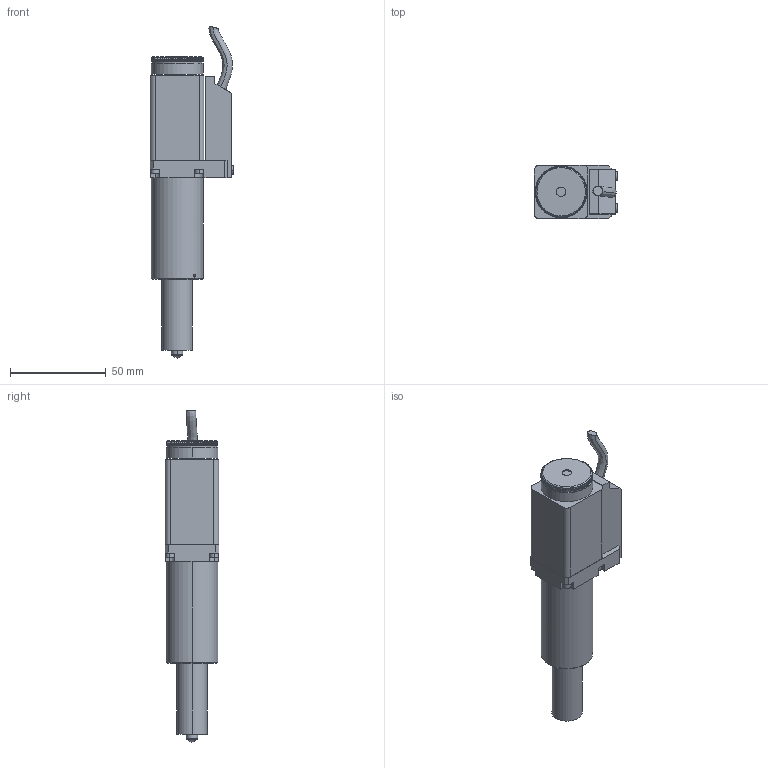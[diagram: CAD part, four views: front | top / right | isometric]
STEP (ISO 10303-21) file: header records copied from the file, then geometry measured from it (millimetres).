
FILE_DESCRIPTION (( 'STEP AP203' ), '1' );
FILE_NAME ('8MS00-10-28.STEP', '2009-08-13T10:38:27', ( 'Darius' ), ( '' ), 'SwSTEP 2.0', 'SolidWorks 2003240', '' );
FILE_SCHEMA (( 'CONFIG_CONTROL_DESIGN' ));
Length unit declared in the file: millimetre
Products named in the file (1): 8MS00-10-28
Bounding box: 43.5 x 28 x 173.07 mm (x, y, z)
Volume: 100480.6 mm3; surface area: 21284.2 mm2
Topology: 1 solids, 14 shells, 907 faces, 2425 edges, 1551 vertices
Faces by surface type: cylinder 465, plane 389, cone 38, bspline 15
Entity records: 30345 total; most frequent: CARTESIAN_POINT 7641, DIRECTION 4829, ORIENTED_EDGE 4806, EDGE_CURVE 2403, AXIS2_PLACEMENT_3D 1831, VERTEX_POINT 1551, LINE 1167, VECTOR 1167
